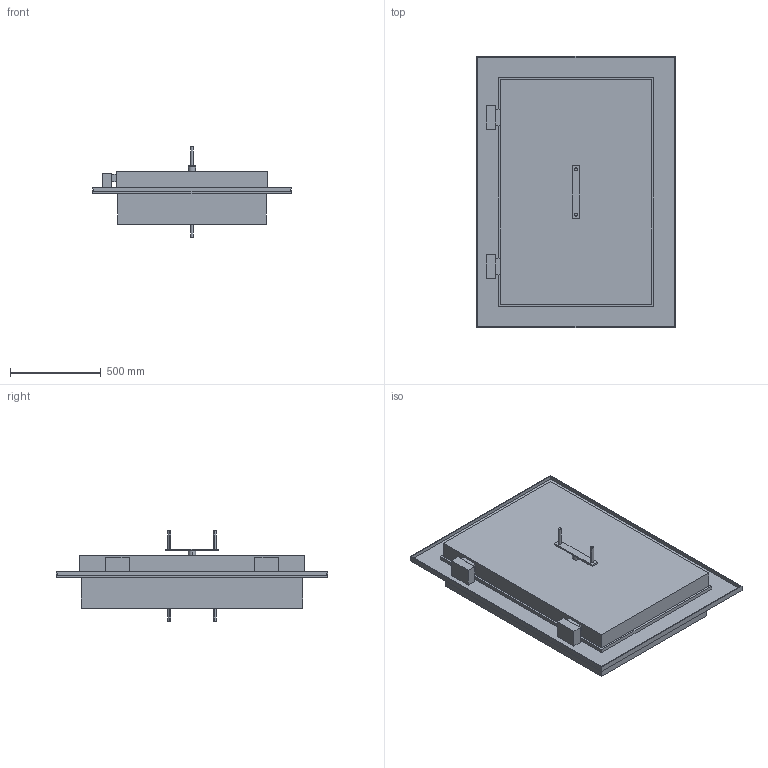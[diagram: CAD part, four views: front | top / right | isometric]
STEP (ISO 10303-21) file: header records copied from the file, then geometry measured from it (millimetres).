
FILE_DESCRIPTION((''),'2;1');
FILE_NAME('51220609','2018-05-15T',('gm'),('HUBER SE'),'PRO/ENGINEER BY PARAMETRIC TECHNOLOGY CORPORATION, 2017170','PRO/ENGINEER BY PARAMETRIC TECHNOLOGY CORPORATION, 2017170','');
FILE_SCHEMA(('AUTOMOTIVE_DESIGN { 1 0 10303 214 1 1 1 1 }'));
Length unit declared in the file: millimetre
Products named in the file (1): 51220609
Bounding box: 1090 x 1490 x 495 mm (x, y, z)
Volume: 108014855.3 mm3; surface area: 5617325.1 mm2
Topology: 1 solids, 1 shells, 79 faces, 184 edges, 120 vertices
Faces by surface type: plane 67, cylinder 12
Entity records: 3139 total; most frequent: CARTESIAN_POINT 394, DIRECTION 379, ORIENTED_EDGE 368, EDGE_CURVE 184, VECTOR 160, LINE 160, VERTEX_POINT 120, COLOUR_RGB 119
